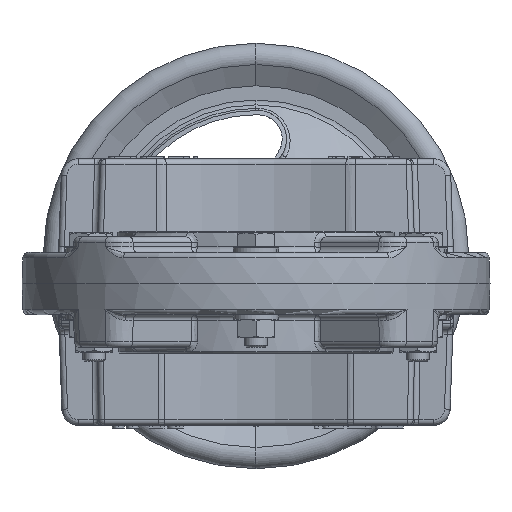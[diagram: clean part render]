
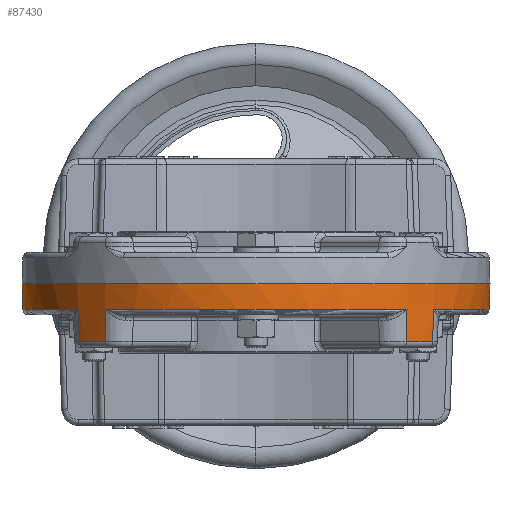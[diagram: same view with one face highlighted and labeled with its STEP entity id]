
A CAD part, front view. The second image highlights one B-rep face of the part: STEP entity #87430.
In plain terms, the highlighted conical face has half-angle 2 degrees and reference radius 82.5 mm.
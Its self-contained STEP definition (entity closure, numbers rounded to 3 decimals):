
#1759 = CARTESIAN_POINT ( 'NONE',  ( 0., 0., 0. ) ) ;
#1839 = EDGE_CURVE ( 'NONE', #60403, #60367, #7782, .T. ) ;
#2564 = VERTEX_POINT ( 'NONE', #81636 ) ;
#5044 = VERTEX_POINT ( 'NONE', #88137 ) ;
#7593 = VECTOR ( 'NONE', #51070, 1000. ) ;
#7653 = EDGE_CURVE ( 'NONE', #51794, #44367, #67772, .T. ) ;
#7782 = LINE ( 'NONE', #86876, #88679 ) ;
#8389 = CIRCLE ( 'NONE', #99293, 82.183 ) ;
#8896 = LINE ( 'NONE', #72677, #50666 ) ;
#10038 = ORIENTED_EDGE ( 'NONE', *, *, #77887, .T. ) ;
#10212 = DIRECTION ( 'NONE',  ( 0., 0., 1. ) ) ;
#11575 = CARTESIAN_POINT ( 'NONE',  ( 53.243, -62.604, -9.07 ) ) ;
#12363 = EDGE_CURVE ( 'NONE', #60367, #55439, #50920, .T. ) ;
#13563 = ORIENTED_EDGE ( 'NONE', *, *, #12363, .F. ) ;
#15016 = AXIS2_PLACEMENT_3D ( 'NONE', #44969, #99582, #52860 ) ;
#17954 = CARTESIAN_POINT ( 'NONE',  ( 82.5, 0., 0. ) ) ;
#22515 = CARTESIAN_POINT ( 'NONE',  ( -62.298, -52.983, -20.57 ) ) ;
#23811 = CARTESIAN_POINT ( 'NONE',  ( -62.604, -53.243, -9.07 ) ) ;
#24709 = FACE_OUTER_BOUND ( 'NONE', #53870, .T. ) ;
#25362 = DIRECTION ( 'NONE',  ( 0.035, 0., 0.999 ) ) ;
#25422 = EDGE_CURVE ( 'NONE', #82230, #2564, #89784, .T. ) ;
#26058 = CARTESIAN_POINT ( 'NONE',  ( -82.5, 0., 0. ) ) ;
#27943 = LINE ( 'NONE', #47192, #48877 ) ;
#28742 = CARTESIAN_POINT ( 'NONE',  ( 82.183, 0., -9.07 ) ) ;
#29619 = ORIENTED_EDGE ( 'NONE', *, *, #7653, .T. ) ;
#31485 = CARTESIAN_POINT ( 'NONE',  ( 0., 0., 0. ) ) ;
#32004 = VERTEX_POINT ( 'NONE', #11575 ) ;
#32043 = DIRECTION ( 'NONE',  ( -0.027, -0.023, 0.999 ) ) ;
#32061 = ORIENTED_EDGE ( 'NONE', *, *, #88391, .T. ) ;
#33399 = EDGE_CURVE ( 'NONE', #73703, #55439, #8896, .T. ) ;
#34380 = CARTESIAN_POINT ( 'NONE',  ( 53.449, -62.845, 0. ) ) ;
#34908 = CARTESIAN_POINT ( 'NONE',  ( -53.243, -62.604, -9.07 ) ) ;
#35809 = CARTESIAN_POINT ( 'NONE',  ( 0., 0., -20.57 ) ) ;
#37670 = CIRCLE ( 'NONE', #41803, 81.782 ) ;
#39360 = CARTESIAN_POINT ( 'NONE',  ( 0., 0., -9.07 ) ) ;
#39371 = DIRECTION ( 'NONE',  ( 1., 0., 0. ) ) ;
#40344 = DIRECTION ( 'NONE',  ( -0.035, 0., 0.999 ) ) ;
#40671 = VERTEX_POINT ( 'NONE', #23811 ) ;
#41803 = AXIS2_PLACEMENT_3D ( 'NONE', #35809, #90555, #43775 ) ;
#42306 = DIRECTION ( 'NONE',  ( 0., 0., 1. ) ) ;
#43775 = DIRECTION ( 'NONE',  ( 1., 0., 0. ) ) ;
#44367 = VERTEX_POINT ( 'NONE', #57692 ) ;
#44577 = VECTOR ( 'NONE', #58060, 1000. ) ;
#44969 = CARTESIAN_POINT ( 'NONE',  ( 0., 0., -9.07 ) ) ;
#46497 = EDGE_CURVE ( 'NONE', #5044, #82230, #37670, .T. ) ;
#47192 = CARTESIAN_POINT ( 'NONE',  ( -62.845, -53.449, 0. ) ) ;
#47315 = DIRECTION ( 'NONE',  ( 1., 0., 0. ) ) ;
#48241 = VECTOR ( 'NONE', #56159, 1000. ) ;
#48877 = VECTOR ( 'NONE', #32043, 1000. ) ;
#50666 = VECTOR ( 'NONE', #25362, 1000. ) ;
#50920 = CIRCLE ( 'NONE', #85358, 82.5 ) ;
#51070 = DIRECTION ( 'NONE',  ( -0.023, -0.027, 0.999 ) ) ;
#51794 = VERTEX_POINT ( 'NONE', #22515 ) ;
#52860 = DIRECTION ( 'NONE',  ( 1., 0., 0. ) ) ;
#53870 = EDGE_LOOP ( 'NONE', ( #56487, #66376, #13563, #57789, #93207, #82288, #29619, #32061, #10038, #79912, #61606, #68987 ) ) ;
#55439 = VERTEX_POINT ( 'NONE', #17954 ) ;
#56159 = DIRECTION ( 'NONE',  ( 0.027, -0.023, 0.999 ) ) ;
#56332 = DIRECTION ( 'NONE',  ( 0., 0., 1. ) ) ;
#56487 = ORIENTED_EDGE ( 'NONE', *, *, #70236, .T. ) ;
#56946 = EDGE_CURVE ( 'NONE', #5044, #32004, #65434, .T. ) ;
#57185 = CARTESIAN_POINT ( 'NONE',  ( 0., 0., -9.07 ) ) ;
#57692 = CARTESIAN_POINT ( 'NONE',  ( -52.983, -62.298, -20.57 ) ) ;
#57789 = ORIENTED_EDGE ( 'NONE', *, *, #1839, .F. ) ;
#58060 = DIRECTION ( 'NONE',  ( 0.023, -0.027, 0.999 ) ) ;
#60367 = VERTEX_POINT ( 'NONE', #26058 ) ;
#60403 = VERTEX_POINT ( 'NONE', #89350 ) ;
#60452 = CARTESIAN_POINT ( 'NONE',  ( 62.298, -52.983, -20.57 ) ) ;
#61606 = ORIENTED_EDGE ( 'NONE', *, *, #46497, .T. ) ;
#62717 = AXIS2_PLACEMENT_3D ( 'NONE', #1759, #56332, #64905 ) ;
#64905 = DIRECTION ( 'NONE',  ( -1., 0., 0. ) ) ;
#65117 = DIRECTION ( 'NONE',  ( 1., 0., 0. ) ) ;
#65434 = LINE ( 'NONE', #34380, #44577 ) ;
#66376 = ORIENTED_EDGE ( 'NONE', *, *, #33399, .T. ) ;
#67772 = CIRCLE ( 'NONE', #83421, 81.782 ) ;
#68987 = ORIENTED_EDGE ( 'NONE', *, *, #25422, .T. ) ;
#69255 = CIRCLE ( 'NONE', #83415, 82.183 ) ;
#70236 = EDGE_CURVE ( 'NONE', #2564, #73703, #8389, .T. ) ;
#70800 = EDGE_CURVE ( 'NONE', #51794, #40671, #27943, .T. ) ;
#72677 = CARTESIAN_POINT ( 'NONE',  ( 82.5, 0., 0. ) ) ;
#73703 = VERTEX_POINT ( 'NONE', #28742 ) ;
#74959 = CONICAL_SURFACE ( 'NONE', #62717, 82.5, 0.035 ) ;
#77887 = EDGE_CURVE ( 'NONE', #99316, #32004, #91630, .T. ) ;
#79368 = CARTESIAN_POINT ( 'NONE',  ( 62.845, -53.449, 0. ) ) ;
#79912 = ORIENTED_EDGE ( 'NONE', *, *, #56946, .F. ) ;
#81636 = CARTESIAN_POINT ( 'NONE',  ( 62.604, -53.243, -9.07 ) ) ;
#82230 = VERTEX_POINT ( 'NONE', #60452 ) ;
#82288 = ORIENTED_EDGE ( 'NONE', *, *, #70800, .F. ) ;
#83415 = AXIS2_PLACEMENT_3D ( 'NONE', #57185, #10212, #65117 ) ;
#83421 = AXIS2_PLACEMENT_3D ( 'NONE', #89122, #42306, #96976 ) ;
#85358 = AXIS2_PLACEMENT_3D ( 'NONE', #31485, #86233, #39371 ) ;
#86233 = DIRECTION ( 'NONE',  ( 0., 0., 1. ) ) ;
#86400 = EDGE_CURVE ( 'NONE', #60403, #40671, #69255, .T. ) ;
#86876 = CARTESIAN_POINT ( 'NONE',  ( -82.5, 0., 0. ) ) ;
#87430 = ADVANCED_FACE ( 'NONE', ( #24709 ), #74959, .T. ) ;
#88137 = CARTESIAN_POINT ( 'NONE',  ( 52.983, -62.298, -20.57 ) ) ;
#88391 = EDGE_CURVE ( 'NONE', #44367, #99316, #88491, .T. ) ;
#88491 = LINE ( 'NONE', #89964, #7593 ) ;
#88679 = VECTOR ( 'NONE', #40344, 1000. ) ;
#89122 = CARTESIAN_POINT ( 'NONE',  ( 0., 0., -20.57 ) ) ;
#89350 = CARTESIAN_POINT ( 'NONE',  ( -82.183, 0., -9.07 ) ) ;
#89784 = LINE ( 'NONE', #79368, #48241 ) ;
#89964 = CARTESIAN_POINT ( 'NONE',  ( -53.449, -62.845, 0. ) ) ;
#90555 = DIRECTION ( 'NONE',  ( 0., 0., 1. ) ) ;
#91630 = CIRCLE ( 'NONE', #15016, 82.183 ) ;
#93207 = ORIENTED_EDGE ( 'NONE', *, *, #86400, .T. ) ;
#94080 = DIRECTION ( 'NONE',  ( 0., 0., 1. ) ) ;
#96976 = DIRECTION ( 'NONE',  ( 1., 0., 0. ) ) ;
#99293 = AXIS2_PLACEMENT_3D ( 'NONE', #39360, #94080, #47315 ) ;
#99316 = VERTEX_POINT ( 'NONE', #34908 ) ;
#99582 = DIRECTION ( 'NONE',  ( 0., 0., 1. ) ) ;
